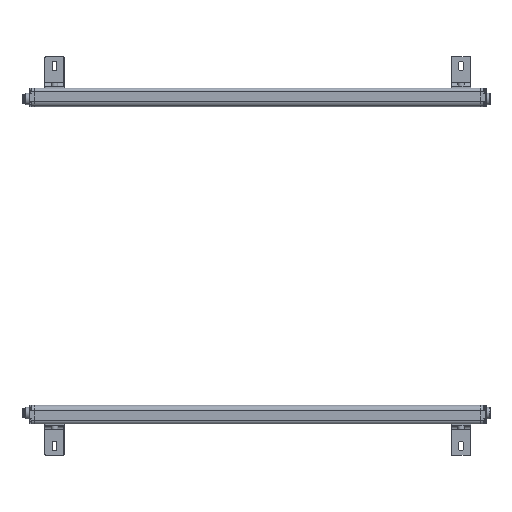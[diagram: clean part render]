
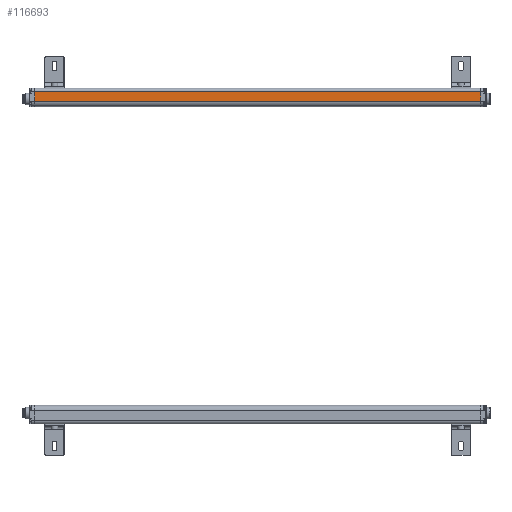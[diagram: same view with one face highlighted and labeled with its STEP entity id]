
A CAD part, left-side view. The second image highlights one B-rep face of the part: STEP entity #116693.
In plain terms, the highlighted planar face has unit normal (-1, 0, 0).
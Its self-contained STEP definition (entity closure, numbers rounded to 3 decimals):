
#440 = EDGE_CURVE ( 'NONE', #33305, #39341, #149940, .T. ) ;
#2940 = DIRECTION ( 'NONE',  ( 0., 0., 1. ) ) ;
#3637 = CARTESIAN_POINT ( 'NONE',  ( -17.35, 0., 8.225 ) ) ;
#6478 = DIRECTION ( 'NONE',  ( 0., -1., 0. ) ) ;
#7311 = ORIENTED_EDGE ( 'NONE', *, *, #440, .T. ) ;
#8328 = ORIENTED_EDGE ( 'NONE', *, *, #142155, .F. ) ;
#13375 = EDGE_CURVE ( 'NONE', #39341, #113502, #118405, .T. ) ;
#20298 = EDGE_LOOP ( 'NONE', ( #7311, #70114, #8328, #28114 ) ) ;
#27252 = CARTESIAN_POINT ( 'NONE',  ( -17.35, 665., 0. ) ) ;
#27686 = CARTESIAN_POINT ( 'NONE',  ( -17.35, 0., -6.175 ) ) ;
#28114 = ORIENTED_EDGE ( 'NONE', *, *, #48149, .F. ) ;
#32681 = VERTEX_POINT ( 'NONE', #69293 ) ;
#33305 = VERTEX_POINT ( 'NONE', #106253 ) ;
#33452 = VECTOR ( 'NONE', #2940, 1000. ) ;
#39341 = VERTEX_POINT ( 'NONE', #85194 ) ;
#45976 = CARTESIAN_POINT ( 'NONE',  ( -17.35, 0., 0. ) ) ;
#48149 = EDGE_CURVE ( 'NONE', #33305, #32681, #140506, .T. ) ;
#51012 = DIRECTION ( 'NONE',  ( 0., 0., 1. ) ) ;
#53115 = VECTOR ( 'NONE', #57628, 1000. ) ;
#57628 = DIRECTION ( 'NONE',  ( 0., 0., 1. ) ) ;
#69293 = CARTESIAN_POINT ( 'NONE',  ( -17.35, 665., 8.225 ) ) ;
#70114 = ORIENTED_EDGE ( 'NONE', *, *, #13375, .T. ) ;
#84638 = VECTOR ( 'NONE', #6478, 1000. ) ;
#84955 = DIRECTION ( 'NONE',  ( -1., 0., 0. ) ) ;
#85194 = CARTESIAN_POINT ( 'NONE',  ( -17.35, 0., -6.175 ) ) ;
#87051 = CARTESIAN_POINT ( 'NONE',  ( -17.35, 0., -6.175 ) ) ;
#96164 = FACE_OUTER_BOUND ( 'NONE', #20298, .T. ) ;
#106253 = CARTESIAN_POINT ( 'NONE',  ( -17.35, 665., -6.175 ) ) ;
#107197 = CARTESIAN_POINT ( 'NONE',  ( -17.35, 0., 8.225 ) ) ;
#108545 = DIRECTION ( 'NONE',  ( 0., -1., 0. ) ) ;
#113006 = AXIS2_PLACEMENT_3D ( 'NONE', #27686, #84955, #51012 ) ;
#113502 = VERTEX_POINT ( 'NONE', #107197 ) ;
#114963 = VECTOR ( 'NONE', #108545, 1000. ) ;
#116693 = ADVANCED_FACE ( 'NONE', ( #96164 ), #119442, .T. ) ;
#118405 = LINE ( 'NONE', #45976, #53115 ) ;
#119442 = PLANE ( 'NONE',  #113006 ) ;
#140424 = LINE ( 'NONE', #3637, #114963 ) ;
#140506 = LINE ( 'NONE', #27252, #33452 ) ;
#142155 = EDGE_CURVE ( 'NONE', #32681, #113502, #140424, .T. ) ;
#149940 = LINE ( 'NONE', #87051, #84638 ) ;
